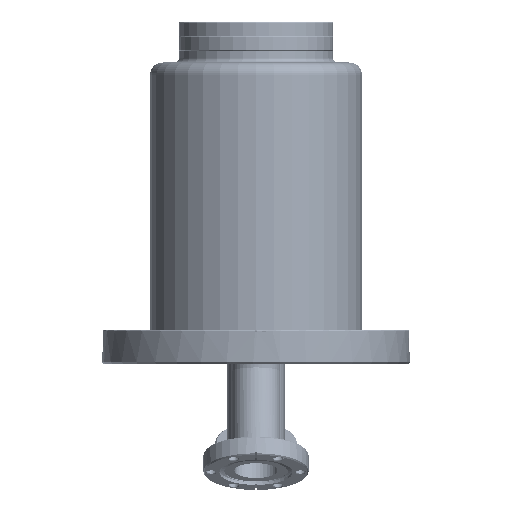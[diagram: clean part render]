
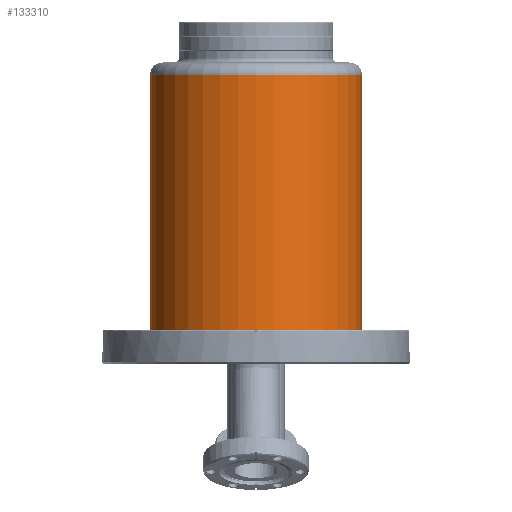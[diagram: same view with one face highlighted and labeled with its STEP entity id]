
A CAD part, front view. The second image highlights one B-rep face of the part: STEP entity #133310.
In plain terms, the highlighted cylindrical face has radius 69.85 mm (diameter 139.7 mm), a partial arc.
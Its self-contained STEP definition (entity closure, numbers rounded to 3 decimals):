
#120150=CARTESIAN_POINT('',(69.85,0.,
5.493));
#120160=VERTEX_POINT('',#120150);
#120190=CARTESIAN_POINT('',(0.,0.,
5.493));
#120200=DIRECTION('',(0.,0.,1.));
#120210=DIRECTION('',(1.,0.,0.));
#120220=AXIS2_PLACEMENT_3D('',#120190,#120200,#120210);
#120230=CIRCLE('',#120220,69.85);
#120240=CARTESIAN_POINT('',(-69.85,0.,
5.493));
#120250=VERTEX_POINT('',#120240);
#120260=EDGE_CURVE('',#120250,#120160,#120230,.T.);
#133000=CARTESIAN_POINT('',(0.,0.,
-99.511));
#133010=DIRECTION('',(0.,0.,1.));
#133020=DIRECTION('',(1.,0.,0.));
#133030=AXIS2_PLACEMENT_3D('',#133000,#133010,#133020);
#133040=CYLINDRICAL_SURFACE('',#133030,69.85);
#133050=CARTESIAN_POINT('',(-69.85,0.,
-99.511));
#133060=DIRECTION('',(0.,0.,1.));
#133070=VECTOR('',#133060,1.);
#133080=LINE('',#133050,#133070);
#133090=CARTESIAN_POINT('',(-69.85,0.,
-164.357));
#133100=VERTEX_POINT('',#133090);
#133110=EDGE_CURVE('',#133100,#120250,#133080,.T.);
#133120=ORIENTED_EDGE('',*,*,#133110,.F.);
#133130=ORIENTED_EDGE('',*,*,#120260,.F.);
#133140=CARTESIAN_POINT('',(69.85,0.,
-99.511));
#133150=DIRECTION('',(0.,0.,1.));
#133160=VECTOR('',#133150,1.);
#133170=LINE('',#133140,#133160);
#133180=CARTESIAN_POINT('',(69.85,0.,
-164.357));
#133190=VERTEX_POINT('',#133180);
#133200=EDGE_CURVE('',#133190,#120160,#133170,.T.);
#133210=ORIENTED_EDGE('',*,*,#133200,.T.);
#133220=CARTESIAN_POINT('',(0.,0.,
-164.357));
#133230=DIRECTION('',(0.,0.,1.));
#133240=DIRECTION('',(1.,0.,0.));
#133250=AXIS2_PLACEMENT_3D('',#133220,#133230,#133240);
#133260=CIRCLE('',#133250,69.85);
#133270=EDGE_CURVE('',#133100,#133190,#133260,.T.);
#133280=ORIENTED_EDGE('',*,*,#133270,.T.);
#133290=EDGE_LOOP('',(#133280,#133210,#133130,#133120));
#133300=FACE_OUTER_BOUND('',#133290,.T.);
#133310=ADVANCED_FACE('',(#133300),#133040,.T.);
